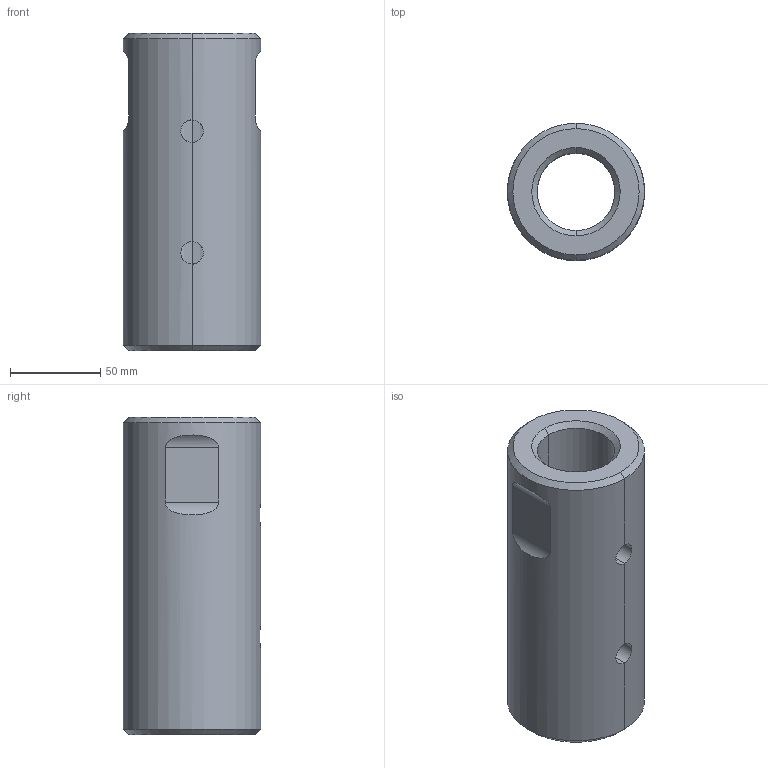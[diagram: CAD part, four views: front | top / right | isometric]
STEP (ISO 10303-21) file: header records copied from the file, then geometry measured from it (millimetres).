
FILE_DESCRIPTION (( 'STEP AP203' ), '1' );
FILE_NAME ('Spannschloss M48.STEP', '2018-02-22T10:02:34', ( 'install' ), ( 'Hewlett-Packard Company' ), 'SwSTEP 2.0', 'SolidWorks 2017', '' );
FILE_SCHEMA (( 'CONFIG_CONTROL_DESIGN' ));
Length unit declared in the file: millimetre
Products named in the file (1): Spannschloss M48
Bounding box: 76 x 76 x 176 mm (x, y, z)
Volume: 490724.1 mm3; surface area: 73966.5 mm2
Topology: 1 solids, 1 shells, 30 faces, 68 edges, 40 vertices
Faces by surface type: cylinder 16, cone 8, plane 6
Entity records: 1447 total; most frequent: CARTESIAN_POINT 693, DIRECTION 142, ORIENTED_EDGE 136, EDGE_CURVE 68, AXIS2_PLACEMENT_3D 55, VERTEX_POINT 40, EDGE_LOOP 36, VECTOR 32
